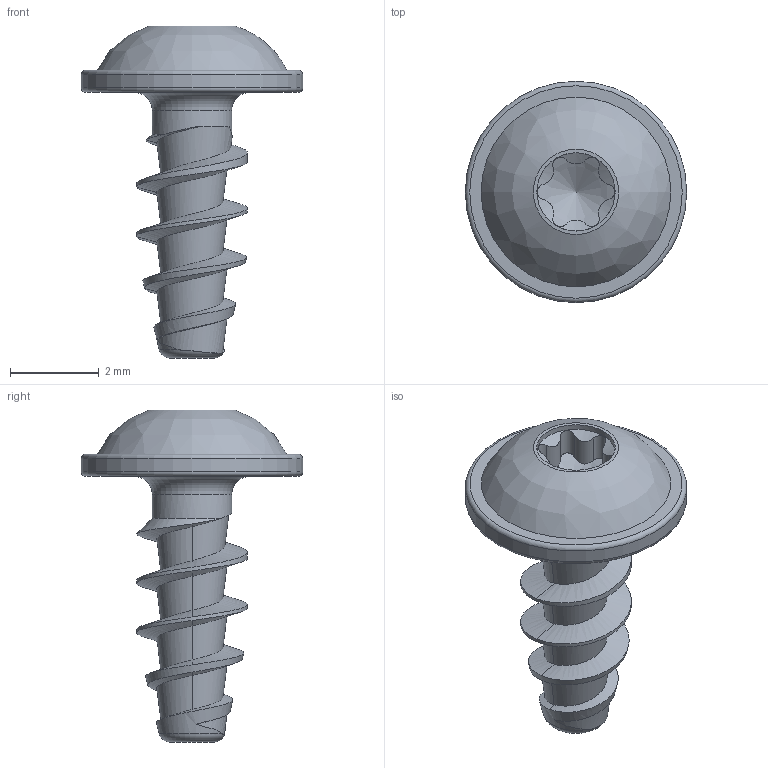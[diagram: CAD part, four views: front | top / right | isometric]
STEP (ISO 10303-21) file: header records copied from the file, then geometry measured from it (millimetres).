
FILE_DESCRIPTION(/* description */ (''),/* implementation_level */ '2;1');
FILE_NAME(/* name */ 'KN1038-STS-25x6-T6.step',/* time_stamp */ '2017-10-12T15:21:57+02:00',/* author */ (''),/* organization */ (''),/* preprocessor_version */ 'ST-DEVELOPER v16',/* originating_system */ 'SIEMENS PLM Software NX 10.0',/* authorisation */ '');
FILE_SCHEMA (('AUTOMOTIVE_DESIGN { 1 0 10303 214 3 1 1 1 }'));
Length unit declared in the file: millimetre
Products named in the file (1): KN1038-STS-25x6-T6
Bounding box: 5 x 5 x 7.5 mm (x, y, z)
Volume: 31.5 mm3; surface area: 100.3 mm2
Topology: 1 solids, 1 shells, 45 faces, 113 edges, 72 vertices
Faces by surface type: cylinder 16, bspline 16, plane 5, cone 4, torus 4
Full cylindrical faces by diameter (mm): 1.77 x1, 1.8 x1, 5 x1
Entity records: 2678 total; most frequent: CARTESIAN_POINT 1809, ORIENTED_EDGE 192, DIRECTION 116, EDGE_CURVE 96, VERTEX_POINT 66, EDGE_LOOP 57, B_SPLINE_CURVE_WITH_KNOTS 56, AXIS2_PLACEMENT_3D 46
